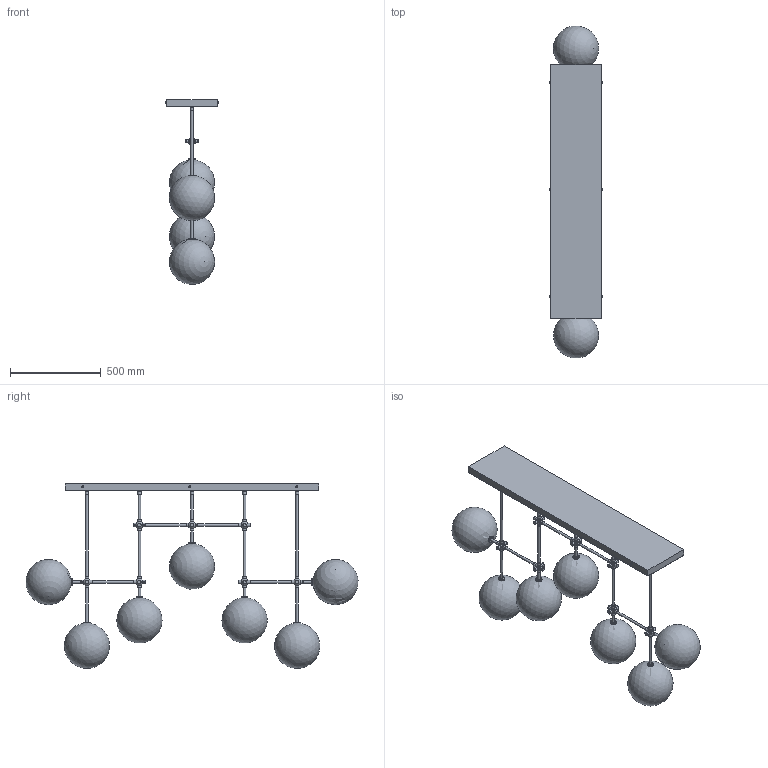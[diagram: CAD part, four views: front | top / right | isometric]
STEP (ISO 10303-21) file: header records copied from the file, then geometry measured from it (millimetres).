
FILE_DESCRIPTION(/* description */ (''),/* implementation_level */ '2;1');
FILE_NAME(/* name */ 'T:\B028 Soap B7 LG\Pliki bryłowe handlowe\B028 Soap B7 LG 3D files\B028 Soap B7 LG.stp',/* time_stamp */ '2022-01-28T14:42:29+01:00',/* author */ ('Mariusz Awariusz'),/* organization */ (''),/* preprocessor_version */ 'ST-DEVELOPER v18.1',/* originating_system */ 'Autodesk Inventor 2022',/* authorisation */ '');
FILE_SCHEMA (('AUTOMOTIVE_DESIGN { 1 0 10303 214 3 1 1 }'));
Length unit declared in the file: millimetre
Products named in the file (1): B027 Soap B7 LG_jako część
Bounding box: 291 x 1831.25 x 1018.01 mm (x, y, z)
Volume: 19239636.1 mm3; surface area: 3886943.5 mm2
Topology: 1 solids, 15 shells, 809 faces, 1534 edges, 919 vertices
Faces by surface type: plane 345, cylinder 264, cone 144, sphere 27, bspline 15, torus 14
Full cylindrical faces by diameter (mm): 3 x6, 6 x6, 11 x4, 11.6 x7, 13 x32, 18 x47, 18.917 x84, 20 x60, 33 x7, 35 x7
Entity records: 21355 total; most frequent: CARTESIAN_POINT 4222, DIRECTION 4073, ORIENTED_EDGE 3012, AXIS2_PLACEMENT_3D 1816, EDGE_CURVE 1506, EDGE_LOOP 1088, VERTEX_POINT 919, CIRCLE 895
